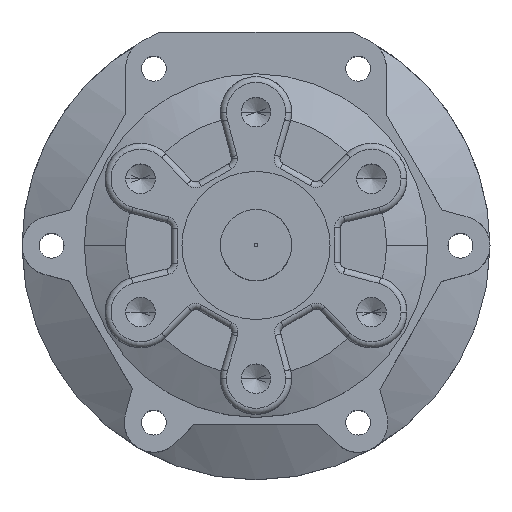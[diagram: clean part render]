
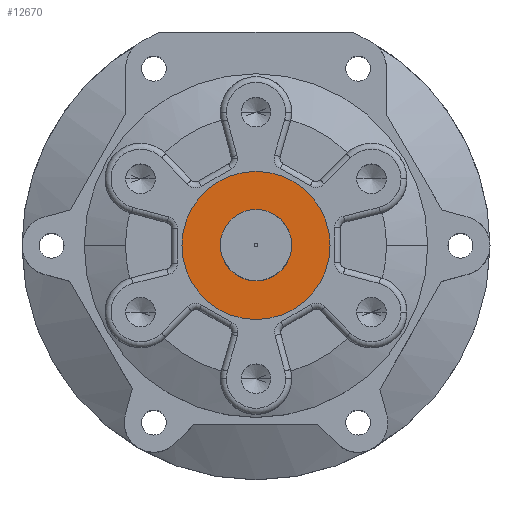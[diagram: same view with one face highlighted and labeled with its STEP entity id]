
A CAD part, top view. The second image highlights one B-rep face of the part: STEP entity #12670.
In plain terms, the highlighted planar face has unit normal (0, 0, 1).
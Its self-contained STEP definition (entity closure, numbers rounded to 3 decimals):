
#174 = PLANE ( 'NONE',  #10795 ) ;
#339 = DIRECTION ( 'NONE',  ( 1., 0., 0. ) ) ;
#363 = ORIENTED_EDGE ( 'NONE', *, *, #15460, .F. ) ;
#1349 = DIRECTION ( 'NONE',  ( 0., 0., 1. ) ) ;
#1522 = FACE_BOUND ( 'NONE', #2827, .T. ) ;
#1880 = CIRCLE ( 'NONE', #7946, 12.5 ) ;
#1992 = CARTESIAN_POINT ( 'NONE',  ( 6., 0., 0. ) ) ;
#2239 = DIRECTION ( 'NONE',  ( 1., 0., 0. ) ) ;
#2827 = EDGE_LOOP ( 'NONE', ( #12601, #363 ) ) ;
#3084 = DIRECTION ( 'NONE',  ( 0., 0., 1. ) ) ;
#3213 = DIRECTION ( 'NONE',  ( 0., 0., 1. ) ) ;
#3362 = CARTESIAN_POINT ( 'NONE',  ( -6., 0., 0. ) ) ;
#3385 = AXIS2_PLACEMENT_3D ( 'NONE', #11774, #8029, #339 ) ;
#3435 = CARTESIAN_POINT ( 'NONE',  ( 12.5, 0., 0. ) ) ;
#4049 = ORIENTED_EDGE ( 'NONE', *, *, #4944, .T. ) ;
#4687 = CIRCLE ( 'NONE', #8321, 12.5 ) ;
#4944 = EDGE_CURVE ( 'NONE', #11782, #5027, #1880, .T. ) ;
#5027 = VERTEX_POINT ( 'NONE', #9981 ) ;
#5255 = FACE_OUTER_BOUND ( 'NONE', #6552, .T. ) ;
#6044 = CARTESIAN_POINT ( 'NONE',  ( 0., 0., 0. ) ) ;
#6552 = EDGE_LOOP ( 'NONE', ( #4049, #14644 ) ) ;
#6896 = DIRECTION ( 'NONE',  ( 1., 0., 0. ) ) ;
#7389 = DIRECTION ( 'NONE',  ( 0., 0., 1. ) ) ;
#7946 = AXIS2_PLACEMENT_3D ( 'NONE', #9527, #3213, #12096 ) ;
#8029 = DIRECTION ( 'NONE',  ( 0., 0., 1. ) ) ;
#8120 = AXIS2_PLACEMENT_3D ( 'NONE', #6044, #7389, #2239 ) ;
#8217 = VERTEX_POINT ( 'NONE', #3362 ) ;
#8321 = AXIS2_PLACEMENT_3D ( 'NONE', #14515, #3084, #6896 ) ;
#8611 = CIRCLE ( 'NONE', #3385, 6. ) ;
#9440 = CIRCLE ( 'NONE', #8120, 6. ) ;
#9527 = CARTESIAN_POINT ( 'NONE',  ( 0., 0., 0. ) ) ;
#9981 = CARTESIAN_POINT ( 'NONE',  ( -12.5, 0., 0. ) ) ;
#10229 = DIRECTION ( 'NONE',  ( 1., 0., 0. ) ) ;
#10795 = AXIS2_PLACEMENT_3D ( 'NONE', #11616, #1349, #10229 ) ;
#11616 = CARTESIAN_POINT ( 'NONE',  ( 0., 0., 0. ) ) ;
#11774 = CARTESIAN_POINT ( 'NONE',  ( 0., 0., 0. ) ) ;
#11782 = VERTEX_POINT ( 'NONE', #3435 ) ;
#12096 = DIRECTION ( 'NONE',  ( 1., 0., 0. ) ) ;
#12292 = EDGE_CURVE ( 'NONE', #5027, #11782, #4687, .T. ) ;
#12601 = ORIENTED_EDGE ( 'NONE', *, *, #14069, .F. ) ;
#12670 = ADVANCED_FACE ( 'NONE', ( #1522, #5255 ), #174, .T. ) ;
#14069 = EDGE_CURVE ( 'NONE', #15678, #8217, #9440, .T. ) ;
#14515 = CARTESIAN_POINT ( 'NONE',  ( 0., 0., 0. ) ) ;
#14644 = ORIENTED_EDGE ( 'NONE', *, *, #12292, .T. ) ;
#15460 = EDGE_CURVE ( 'NONE', #8217, #15678, #8611, .T. ) ;
#15678 = VERTEX_POINT ( 'NONE', #1992 ) ;
